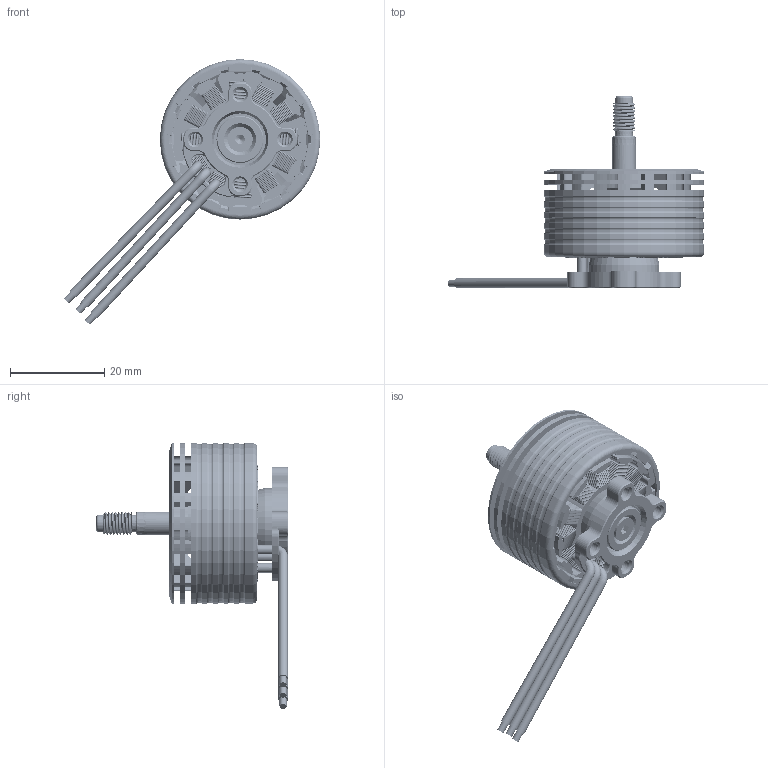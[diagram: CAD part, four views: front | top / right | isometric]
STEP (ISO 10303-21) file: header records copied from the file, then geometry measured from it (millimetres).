
FILE_DESCRIPTION (( 'STEP AP203' ), '1' );
FILE_NAME ('RD 2810 1250KV FPV_Customer 3d CAD.STEP', '2026-09-03T05:12:21', ( '' ), ( '' ), 'RDSTEP 2.0', 'RD 2810 ', '' );
FILE_SCHEMA (( 'CONFIG_CONTROL_DESIGN' ));
Length unit declared in the file: millimetre
Products named in the file (1): RD 2810 1250KV FPV_Customer 3d CAD
Bounding box: 54.37 x 40.6 x 56.31 mm (x, y, z)
Volume: 12461.2 mm3; surface area: 20636.8 mm2
Topology: 13 solids, 17 shells, 7601 faces, 23326 edges, 14136 vertices
Faces by surface type: cylinder 3744, torus 2911, plane 682, cone 142, sphere 112, bspline 10
Entity records: 296632 total; most frequent: CARTESIAN_POINT 87642, ORIENTED_EDGE 46424, DIRECTION 45623, EDGE_CURVE 23212, AXIS2_PLACEMENT_3D 19883, VERTEX_POINT 14136, CIRCLE 12291, EDGE_LOOP 7664
